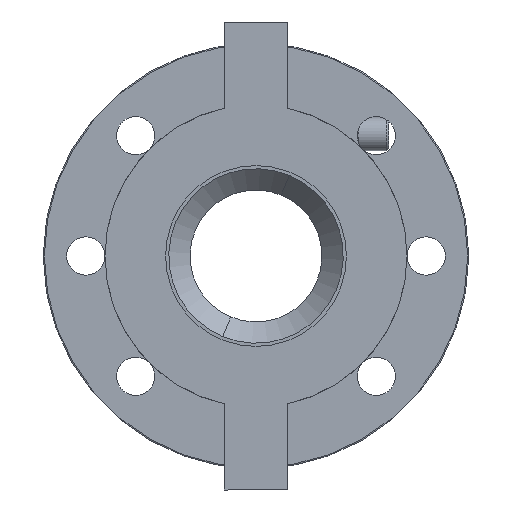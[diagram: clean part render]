
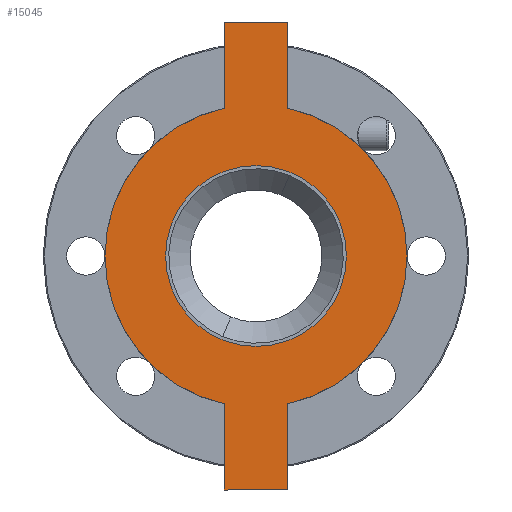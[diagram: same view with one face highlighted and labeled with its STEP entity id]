
A CAD part, front view. The second image highlights one B-rep face of the part: STEP entity #15045.
In plain terms, the highlighted planar face has unit normal (0, -1, 0).
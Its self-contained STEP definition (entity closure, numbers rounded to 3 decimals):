
#1027 = PLANE ( 'NONE',  #19033 ) ;
#1034 = CARTESIAN_POINT ( 'NONE',  ( 0., -27., 0. ) ) ;
#1035 = DIRECTION ( 'NONE',  ( 0., 1., 0. ) ) ;
#1036 = DIRECTION ( 'NONE',  ( 1., 0., 0. ) ) ;
#4303 = EDGE_LOOP ( 'NONE', ( #17950, #17951, #17952, #17953, #17954, #17955, #17956, #17957, #17958, #17959 ) ) ;
#4304 = EDGE_LOOP ( 'NONE', ( #17960, #17961 ) ) ;
#7764 = VERTEX_POINT ( 'NONE', #22547 ) ;
#7765 = VERTEX_POINT ( 'NONE', #22549 ) ;
#7767 = VERTEX_POINT ( 'NONE', #22552 ) ;
#7769 = VERTEX_POINT ( 'NONE', #22555 ) ;
#7770 = VERTEX_POINT ( 'NONE', #22557 ) ;
#7771 = VERTEX_POINT ( 'NONE', #22559 ) ;
#7773 = VERTEX_POINT ( 'NONE', #22563 ) ;
#7774 = VERTEX_POINT ( 'NONE', #22565 ) ;
#7777 = VERTEX_POINT ( 'NONE', #22571 ) ;
#7778 = VERTEX_POINT ( 'NONE', #22572 ) ;
#7781 = VERTEX_POINT ( 'NONE', #22577 ) ;
#7782 = VERTEX_POINT ( 'NONE', #22579 ) ;
#11975 = CIRCLE ( 'NONE', #20282, 42.5 ) ;
#11984 = CIRCLE ( 'NONE', #20284, 71. ) ;
#11999 = CIRCLE ( 'NONE', #20286, 71. ) ;
#12025 = LINE ( 'NONE', #13173, #12045 ) ;
#12034 = LINE ( 'NONE', #13182, #12040 ) ;
#12038 = LINE ( 'NONE', #13178, #12049 ) ;
#12040 = VECTOR ( 'NONE', #13184, 1000. ) ;
#12043 = LINE ( 'NONE', #13189, #12060 ) ;
#12045 = VECTOR ( 'NONE', #13185, 1000. ) ;
#12047 = CIRCLE ( 'NONE', #20288, 71. ) ;
#12049 = VECTOR ( 'NONE', #13187, 1000. ) ;
#12051 = LINE ( 'NONE', #13186, #12056 ) ;
#12053 = LINE ( 'NONE', #13188, #12064 ) ;
#12056 = VECTOR ( 'NONE', #13183, 1000. ) ;
#12058 = CIRCLE ( 'NONE', #20289, 71. ) ;
#12060 = VECTOR ( 'NONE', #13193, 1000. ) ;
#12064 = VECTOR ( 'NONE', #13194, 1000. ) ;
#12066 = CIRCLE ( 'NONE', #20290, 42.5 ) ;
#13142 = CARTESIAN_POINT ( 'NONE',  ( 0., -27., 0. ) ) ;
#13143 = DIRECTION ( 'NONE',  ( 0., 1., 0. ) ) ;
#13144 = DIRECTION ( 'NONE',  ( 1., 0., 0. ) ) ;
#13153 = CARTESIAN_POINT ( 'NONE',  ( 0., -27., 0. ) ) ;
#13154 = DIRECTION ( 'NONE',  ( 0., 1., 0. ) ) ;
#13155 = DIRECTION ( 'NONE',  ( 1., 0., 0. ) ) ;
#13164 = CARTESIAN_POINT ( 'NONE',  ( 0., -27., 0. ) ) ;
#13165 = DIRECTION ( 'NONE',  ( 0., 1., 0. ) ) ;
#13166 = DIRECTION ( 'NONE',  ( 1., 0., 0. ) ) ;
#13173 = CARTESIAN_POINT ( 'NONE',  ( -15., -27., -110. ) ) ;
#13178 = CARTESIAN_POINT ( 'NONE',  ( 15., -27., -110. ) ) ;
#13182 = CARTESIAN_POINT ( 'NONE',  ( -15., -27., -110. ) ) ;
#13183 = DIRECTION ( 'NONE',  ( 0., 0., -1. ) ) ;
#13184 = DIRECTION ( 'NONE',  ( 0., 0., 1. ) ) ;
#13185 = DIRECTION ( 'NONE',  ( -1., 0., 0. ) ) ;
#13186 = CARTESIAN_POINT ( 'NONE',  ( 15., -27., 110. ) ) ;
#13187 = DIRECTION ( 'NONE',  ( 0., 0., -1. ) ) ;
#13188 = CARTESIAN_POINT ( 'NONE',  ( -15., -27., 110. ) ) ;
#13189 = CARTESIAN_POINT ( 'NONE',  ( -15., -27., 110. ) ) ;
#13190 = CARTESIAN_POINT ( 'NONE',  ( 0., -27., 0. ) ) ;
#13191 = DIRECTION ( 'NONE',  ( 0., 1., 0. ) ) ;
#13192 = DIRECTION ( 'NONE',  ( 1., 0., 0. ) ) ;
#13193 = DIRECTION ( 'NONE',  ( 1., 0., 0. ) ) ;
#13194 = DIRECTION ( 'NONE',  ( 0., 0., 1. ) ) ;
#13197 = CARTESIAN_POINT ( 'NONE',  ( 0., -27., 0. ) ) ;
#13198 = DIRECTION ( 'NONE',  ( 0., 1., 0. ) ) ;
#13199 = DIRECTION ( 'NONE',  ( 1., 0., 0. ) ) ;
#13202 = CARTESIAN_POINT ( 'NONE',  ( 0., -27., 0. ) ) ;
#13203 = DIRECTION ( 'NONE',  ( 0., 1., 0. ) ) ;
#13204 = DIRECTION ( 'NONE',  ( 1., 0., 0. ) ) ;
#15045 = ADVANCED_FACE ( 'NONE', ( #18637, #18641 ), #1027, .F. ) ;
#16235 = EDGE_CURVE ( 'NONE', #7764, #7765, #11975, .T. ) ;
#16239 = EDGE_CURVE ( 'NONE', #7769, #7770, #11984, .T. ) ;
#16243 = EDGE_CURVE ( 'NONE', #7773, #7774, #11999, .T. ) ;
#16252 = EDGE_CURVE ( 'NONE', #7777, #7773, #12034, .T. ) ;
#16253 = EDGE_CURVE ( 'NONE', #7771, #7777, #12025, .T. ) ;
#16254 = EDGE_CURVE ( 'NONE', #7770, #7771, #12038, .T. ) ;
#16255 = EDGE_CURVE ( 'NONE', #7778, #7769, #12047, .T. ) ;
#16256 = EDGE_CURVE ( 'NONE', #7782, #7778, #12051, .T. ) ;
#16257 = EDGE_CURVE ( 'NONE', #7767, #7782, #12043, .T. ) ;
#16258 = EDGE_CURVE ( 'NONE', #7781, #7767, #12053, .T. ) ;
#16259 = EDGE_CURVE ( 'NONE', #7774, #7781, #12058, .T. ) ;
#16260 = EDGE_CURVE ( 'NONE', #7765, #7764, #12066, .T. ) ;
#17950 = ORIENTED_EDGE ( 'NONE', *, *, #16252, .F. ) ;
#17951 = ORIENTED_EDGE ( 'NONE', *, *, #16253, .F. ) ;
#17952 = ORIENTED_EDGE ( 'NONE', *, *, #16254, .F. ) ;
#17953 = ORIENTED_EDGE ( 'NONE', *, *, #16239, .F. ) ;
#17954 = ORIENTED_EDGE ( 'NONE', *, *, #16255, .F. ) ;
#17955 = ORIENTED_EDGE ( 'NONE', *, *, #16256, .F. ) ;
#17956 = ORIENTED_EDGE ( 'NONE', *, *, #16257, .F. ) ;
#17957 = ORIENTED_EDGE ( 'NONE', *, *, #16258, .F. ) ;
#17958 = ORIENTED_EDGE ( 'NONE', *, *, #16259, .F. ) ;
#17959 = ORIENTED_EDGE ( 'NONE', *, *, #16243, .F. ) ;
#17960 = ORIENTED_EDGE ( 'NONE', *, *, #16235, .T. ) ;
#17961 = ORIENTED_EDGE ( 'NONE', *, *, #16260, .T. ) ;
#18637 = FACE_OUTER_BOUND ( 'NONE', #4303, .T. ) ;
#18641 = FACE_BOUND ( 'NONE', #4304, .T. ) ;
#19033 = AXIS2_PLACEMENT_3D ( 'NONE', #1034, #1035, #1036 ) ;
#20282 = AXIS2_PLACEMENT_3D ( 'NONE', #13142, #13143, #13144 ) ;
#20284 = AXIS2_PLACEMENT_3D ( 'NONE', #13153, #13154, #13155 ) ;
#20286 = AXIS2_PLACEMENT_3D ( 'NONE', #13164, #13165, #13166 ) ;
#20288 = AXIS2_PLACEMENT_3D ( 'NONE', #13190, #13191, #13192 ) ;
#20289 = AXIS2_PLACEMENT_3D ( 'NONE', #13197, #13198, #13199 ) ;
#20290 = AXIS2_PLACEMENT_3D ( 'NONE', #13202, #13203, #13204 ) ;
#22547 = CARTESIAN_POINT ( 'NONE',  ( -42.5, -27., 0. ) ) ;
#22549 = CARTESIAN_POINT ( 'NONE',  ( 42.5, -27., 0. ) ) ;
#22552 = CARTESIAN_POINT ( 'NONE',  ( -15., -27., 110. ) ) ;
#22555 = CARTESIAN_POINT ( 'NONE',  ( 71., -27., 0. ) ) ;
#22557 = CARTESIAN_POINT ( 'NONE',  ( 15., -27., -69.397 ) ) ;
#22559 = CARTESIAN_POINT ( 'NONE',  ( 15., -27., -110. ) ) ;
#22563 = CARTESIAN_POINT ( 'NONE',  ( -15., -27., -69.397 ) ) ;
#22565 = CARTESIAN_POINT ( 'NONE',  ( -71., -27., 0. ) ) ;
#22571 = CARTESIAN_POINT ( 'NONE',  ( -15., -27., -110. ) ) ;
#22572 = CARTESIAN_POINT ( 'NONE',  ( 15., -27., 69.397 ) ) ;
#22577 = CARTESIAN_POINT ( 'NONE',  ( -15., -27., 69.397 ) ) ;
#22579 = CARTESIAN_POINT ( 'NONE',  ( 15., -27., 110. ) ) ;
